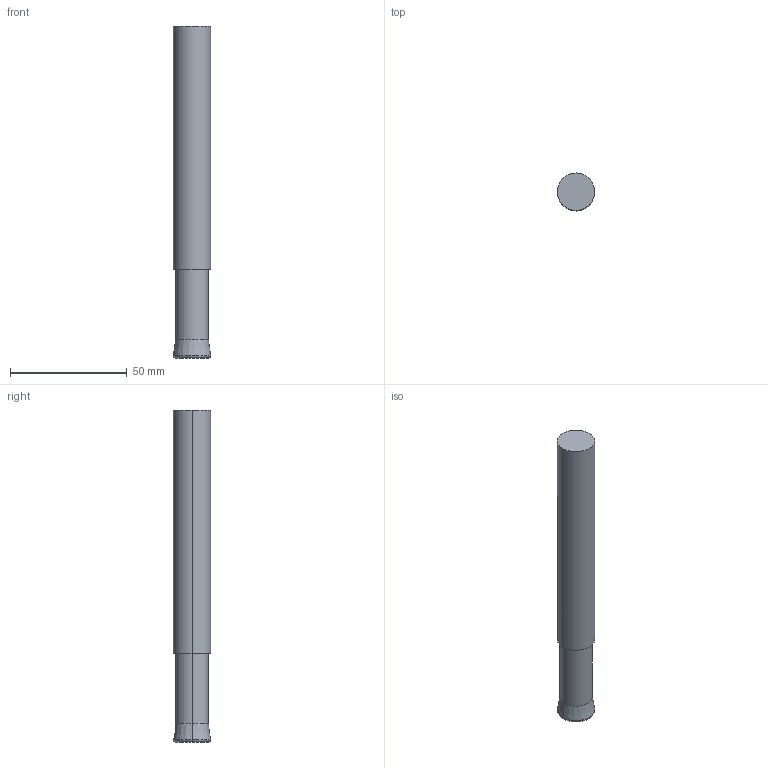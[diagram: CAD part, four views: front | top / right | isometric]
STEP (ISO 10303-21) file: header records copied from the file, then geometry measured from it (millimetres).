
FILE_DESCRIPTION(('STEP AP214'),'1');
FILE_NAME('cctmp_1E2DA252-D04F-4790-8B93-BE73D5C491A6_2020_10_01_10_22_16_0636..stp','2020-10-01T08:22:16',('Meusburger Georg GmbH & Co KG'),('CADClick - www.CADClick.com'),'Spatial InterOp 3D',' ','unknown authorization');
FILE_SCHEMA(('AUTOMOTIVE_DESIGN { 1 0 10303 214 1 1 1 1 }'));
Length unit declared in the file: millimetre
Products named in the file (1): WZT1702_16_142
Bounding box: 16.02 x 16.02 x 142 mm (x, y, z)
Volume: 26964 mm3; surface area: 7359.7 mm2
Topology: 1 solids, 1 shells, 14 faces, 26 edges, 16 vertices
Faces by surface type: torus 4, cylinder 4, plane 4, cone 2
Entity records: 494 total; most frequent: DIRECTION 76, CARTESIAN_POINT 57, ORIENTED_EDGE 52, AXIS2_PLACEMENT_3D 35, EDGE_CURVE 26, CIRCLE 20, EDGE_LOOP 16, VERTEX_POINT 16
